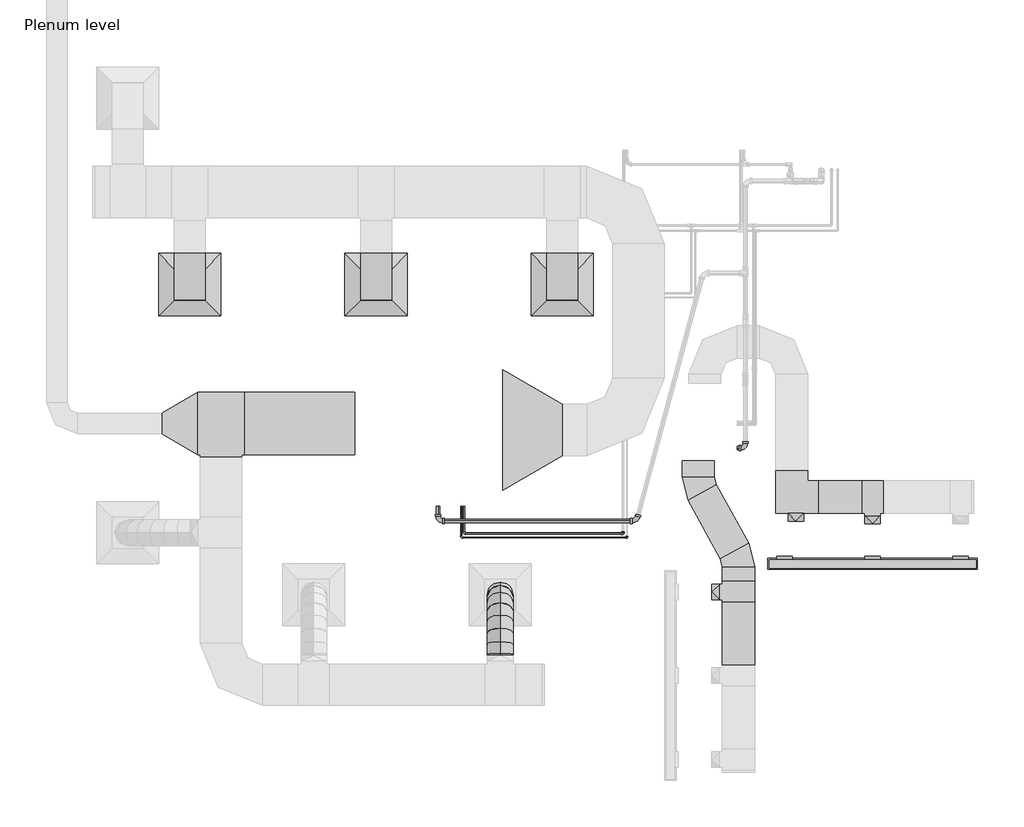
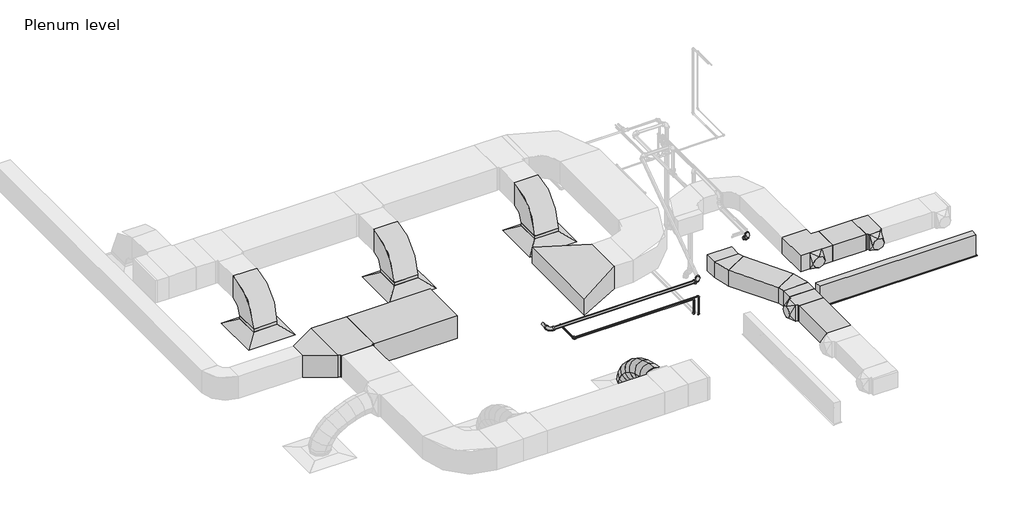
# One storey, part 2 of 5: 16 duct fittings, 10 duct segments, 9 pipe fittings, 9 pipe segments, 4 air terminals.
"""IFC4 building model written with IfcOpenShell, lengths in millimetres."""

from ifc_helpers import new_model, si_unit, point, frame, frame_2d, origin, place, context, project, spatial, polyline, circle_curve, ellipse_curve, trimmed, segment, composite_curve, outline, extrude, transform, mapped, element, save
from ifc_brep_helpers import plane_surface, cylinder_surface, advanced_brep
from components import m_return_diffuser_600_x_600_face_300_x_300_connection_ff221211, standard_549b6772, m_rectangular_elbow_mitered_transition_standard_b998f363, m_rectangular_elbow_radius_1_w_2ae07335, m_rectangular_elbow_radius_1_w_618da153, m_rectangular_tee_standard_5b520c83, m_rectangular_tee_standard_e86e679a, m_rectangular_tee_standard_1939839d, m_rectangular_transition_angle_45_degree_5204351f, m_rectangular_transition_angle_45_degree_ee93f137, m_rectangular_transition_angle_60_degree_07892ac1, m_rectangular_transition_angle_60_degree_b321ac3b, m_rectangular_to_round_transition_angle_45_degree_c764813a, m_rectangular_to_round_transition_angle_45_degree_d6eaa12c, m_bend_pvc_sch_40_dwv_standard_04e582cf, m_bend_pvc_sch_40_dwv_standard_2cf6a8d3, m_elbow_welded_generic_standard_3d1f096c, m_elbow_welded_generic_standard_8e0ccdf9

model = new_model("IFC4")

# Units and contexts
model_context = context("Model", 3, world=origin())
ifc_project = project(units=[si_unit("LENGTHUNIT", "METRE", prefix="MILLI")], contexts=[model_context])

# Site, building, storey
site = spatial("IfcSite", under=ifc_project)
building = spatial("IfcBuilding", under=site)
storey = spatial("IfcBuildingStorey", under=building, Name="Plenum level", Elevation=2500.0)

# Air terminals
placement = place(None, origin())
m_return_diffuser_600_x_600_face_300_x_300_connection_shape = m_return_diffuser_600_x_600_face_300_x_300_connection_ff221211(model_context)
element("IfcAirTerminal", 1, ObjectType="M_Return Diffuser : 600 x 600 Face 300 x 300 Connection", at=placement, inside=storey, context=model_context, shape_type="MappedRepresentation", body=[
    mapped(m_return_diffuser_600_x_600_face_300_x_300_connection_shape, transform((-15662.9123896, -455.4324328, 2500.0), x_axis=(1.0, 0.0, 0.0), y_axis=(0.0, 1.0, 0.0), z_axis=(0.0, 0.0, 1.0))),
])
element("IfcAirTerminal", 2, ObjectType="M_Return Diffuser : 600 x 600 Face 300 x 300 Connection", at=placement, inside=storey, context=model_context, shape_type="MappedRepresentation", body=[
    mapped(m_return_diffuser_600_x_600_face_300_x_300_connection_shape, transform((-13862.9123896, -455.4324328, 2500.0), x_axis=(1.0, 0.0, 0.0), y_axis=(0.0, 1.0, 0.0), z_axis=(0.0, 0.0, 1.0))),
])
element("IfcAirTerminal", 3, ObjectType="M_Return Diffuser : 600 x 600 Face 300 x 300 Connection", at=placement, inside=storey, context=model_context, shape_type="MappedRepresentation", body=[
    mapped(m_return_diffuser_600_x_600_face_300_x_300_connection_shape, transform((-12062.9123896, -455.4324328, 2500.0), x_axis=(1.0, 0.0, 0.0), y_axis=(0.0, 1.0, 0.0), z_axis=(0.0, 0.0, 1.0))),
])
standard_shape = standard_549b6772(model_context)
element("IfcAirTerminal", 4, ObjectType="M_Return Diffuser with Plenum - Linear Slot - Hosted MODIFIED : Standard", at=placement, inside=storey, context=model_context, shape_type="MappedRepresentation", body=[
    mapped(standard_shape, transform((-9062.9123896, -3155.4324328, 2500.0), x_axis=(1.0, 0.0, 0.0), y_axis=(0.0, -1.0, 0.0), z_axis=(0.0, 0.0, -1.0))),
])

# Duct fittings
m_rectangular_elbow_mitered_transition_standard_shape = m_rectangular_elbow_mitered_transition_standard_b998f363(model_context)
element("IfcDuctFitting", 5, ObjectType="M_Rectangular Elbow - Mitered - Transition : Standard", at=placement, inside=storey, context=model_context, shape_type="MappedRepresentation", body=[
    mapped(m_rectangular_elbow_mitered_transition_standard_shape, transform((-9845.2201033, -2510.0324328, 2741.2027987), x_axis=(0.0, -1.0, 0.0), y_axis=(1.0, 0.0, 0.0), z_axis=(0.0, 0.0, 1.0))),
])
m_rectangular_elbow_radius_1_w_shape = m_rectangular_elbow_radius_1_w_2ae07335(model_context)
element("IfcDuctFitting", 6, ObjectType="M_Rectangular Elbow - Radius : 1 W", at=placement, inside=storey, context=model_context, shape_type="MappedRepresentation", body=[
    mapped(m_rectangular_elbow_radius_1_w_shape, transform((-10748.7201033, -2393.8281641, 2765.9110161), x_axis=(0.0, -0.9999999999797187, -6.368885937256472e-06), y_axis=(0.9999999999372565, -7.134490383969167e-11, 1.1202101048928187e-05), z_axis=(-1.120210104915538e-05, -6.368885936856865e-06, 0.9999999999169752))),
])
element("IfcDuctFitting", 7, ObjectType="M_Rectangular Elbow - Radius : 1 W", at=placement, inside=storey, context=model_context, shape_type="MappedRepresentation", body=[
    mapped(m_rectangular_elbow_radius_1_w_shape, transform((-10360.4971529, -3102.6120259, 2765.9121648), x_axis=(0.0, 0.9999999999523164, 9.765625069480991e-06), y_axis=(-0.9999999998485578, 1.699567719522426e-10, -1.74035733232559e-05), z_axis=(-1.7403573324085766e-05, -9.765625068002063e-06, 0.9999999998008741))),
])
m_rectangular_elbow_radius_1_w_2_shape = m_rectangular_elbow_radius_1_w_618da153(model_context)
element("IfcDuctFitting", 8, ObjectType="M_Rectangular Elbow - Radius : 1 W", at=placement, inside=storey, context=model_context, shape_type="MappedRepresentation", body=[
    mapped(m_rectangular_elbow_radius_1_w_2_shape, transform((-12062.9123896, -455.4324328, 2941.2), x_axis=(0.0, -1.0, 0.0), y_axis=(0.0, 0.0, -1.0), z_axis=(1.0, 0.0, 0.0))),
])
element("IfcDuctFitting", 9, ObjectType="M_Rectangular Elbow - Radius : 1 W", at=placement, inside=storey, context=model_context, shape_type="MappedRepresentation", body=[
    mapped(m_rectangular_elbow_radius_1_w_2_shape, transform((-13862.9123896, -455.4324328, 2941.2), x_axis=(0.0, -1.0, 0.0), y_axis=(0.0, 0.0, -1.0), z_axis=(1.0, 0.0, 0.0))),
])
element("IfcDuctFitting", 10, ObjectType="M_Rectangular Elbow - Radius : 1 W", at=placement, inside=storey, context=model_context, shape_type="MappedRepresentation", body=[
    mapped(m_rectangular_elbow_radius_1_w_2_shape, transform((-15662.9123896, -455.4324328, 2941.2), x_axis=(0.0, -1.0, 0.0), y_axis=(0.0, 0.0, -1.0), z_axis=(1.0, 0.0, 0.0))),
])
m_rectangular_tee_standard_shape = m_rectangular_tee_standard_5b520c83(model_context)
element("IfcDuctFitting", 11, ObjectType="M_Rectangular Tee : Standard", at=placement, inside=storey, context=model_context, shape_type="MappedRepresentation", body=[
    mapped(m_rectangular_tee_standard_shape, transform((-10360.4971529, -3424.9332981, 2765.909287), x_axis=(0.0, -0.9999999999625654, -8.652706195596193e-06), y_axis=(1.0, 0.0, 0.0), z_axis=(0.0, -8.652706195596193e-06, 0.9999999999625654))),
])
m_rectangular_tee_standard_2_shape = m_rectangular_tee_standard_e86e679a(model_context)
element("IfcDuctFitting", 12, ObjectType="M_Rectangular Tee : Standard", at=placement, inside=storey, context=model_context, shape_type="MappedRepresentation", body=[
    mapped(m_rectangular_tee_standard_2_shape, transform((-9062.9123896, -2510.0324328, 2741.2027987), x_axis=(1.0, 0.0, 0.0), y_axis=(0.0, 1.0, 0.0), z_axis=(0.0, 0.0, 1.0))),
])
m_rectangular_tee_standard_3_shape = m_rectangular_tee_standard_1939839d(model_context)
element("IfcDuctFitting", 13, ObjectType="M_Rectangular Tee : Standard", at=placement, inside=storey, context=model_context, shape_type="MappedRepresentation", body=[
    mapped(m_rectangular_tee_standard_3_shape, transform((-15362.9185439, -1798.4074328, 2965.8859194), x_axis=(0.9999999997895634, 0.0, 2.051519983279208e-05), y_axis=(3.1979984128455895e-11, 0.9999999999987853, -1.558843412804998e-06), z_axis=(-2.051519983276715e-05, 1.5588434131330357e-06, 0.9999999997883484))),
])
m_rectangular_transition_angle_45_degree_shape = m_rectangular_transition_angle_45_degree_5204351f(model_context)
element("IfcDuctFitting", 14, ObjectType="M_Rectangular Transition - Angle : 45 Degree", at=placement, inside=storey, context=model_context, shape_type="MappedRepresentation", body=[
    mapped(m_rectangular_transition_angle_45_degree_shape, transform((-10710.3765908, -2463.8324305, 2765.9109998), x_axis=(0.48039021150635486, -0.8770548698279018, -2.044827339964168e-07), y_axis=(0.8770548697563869, 0.48039021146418, 1.2884407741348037e-05), z_axis=(-1.1202101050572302e-05, -6.368885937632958e-06, 0.9999999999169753))),
])
m_rectangular_transition_angle_45_degree_2_shape = m_rectangular_transition_angle_45_degree_ee93f137(model_context)
element("IfcDuctFitting", 15, ObjectType="M_Rectangular Transition - Angle : 45 Degree", at=placement, inside=storey, context=model_context, shape_type="MappedRepresentation", body=[
    mapped(m_rectangular_transition_angle_45_degree_2_shape, transform((-10398.8406654, -3032.6077595, 2765.9121811), x_axis=(-0.4803902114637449, 0.8770548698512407, 2.0448275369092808e-07), y_axis=(-0.8770548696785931, -0.48039021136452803, -1.9955199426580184e-05), z_axis=(-1.740357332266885e-05, -9.76562506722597e-06, 0.9999999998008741))),
])
m_rectangular_transition_angle_60_degree_shape = m_rectangular_transition_angle_60_degree_07892ac1(model_context)
element("IfcDuctFitting", 16, ObjectType="M_Rectangular Transition - Angle : 60 Degree", at=placement, inside=storey, context=model_context, shape_type="MappedRepresentation", body=[
    mapped(m_rectangular_transition_angle_60_degree_shape, transform((-15587.9185439, -1798.4074328, 2965.8813035), x_axis=(-0.9999999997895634, 0.0, -2.051519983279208e-05), y_axis=(-3.197998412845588e-11, -0.9999999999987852, 1.5588434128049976e-06), z_axis=(-2.0515199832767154e-05, 1.5588434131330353e-06, 0.9999999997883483))),
])
m_rectangular_transition_angle_60_degree_2_shape = m_rectangular_transition_angle_60_degree_b321ac3b(model_context)
element("IfcDuctFitting", 17, ObjectType="M_Rectangular Transition - Angle : 60 Degree", at=placement, inside=storey, context=model_context, shape_type="MappedRepresentation", body=[
    mapped(m_rectangular_transition_angle_60_degree_2_shape, transform((-12638.2230677, -1861.9074328, 2941.2), x_axis=(1.0, 0.0, 0.0), y_axis=(0.0, 1.0, 0.0), z_axis=(0.0, 0.0, 1.0))),
])
m_rectangular_to_round_transition_angle_45_degree_shape = m_rectangular_to_round_transition_angle_45_degree_c764813a(model_context)
element("IfcDuctFitting", 18, ObjectType="M_Rectangular to Round Transition - Angle : 45 Degree", at=placement, inside=storey, context=model_context, shape_type="MappedRepresentation", body=[
    mapped(m_rectangular_to_round_transition_angle_45_degree_shape, transform((-10541.4346529, -3424.9332981, 2765.909287), x_axis=(-1.0, 0.0, 0.0), y_axis=(0.0, -0.9999999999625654, -8.6527061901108e-06), z_axis=(0.0, -8.6527061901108e-06, 0.9999999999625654))),
])
m_rectangular_to_round_transition_angle_45_degree_2_shape = m_rectangular_to_round_transition_angle_45_degree_d6eaa12c(model_context)
element("IfcDuctFitting", 19, ObjectType="M_Rectangular to Round Transition - Angle : 45 Degree", at=placement, inside=storey, context=model_context, shape_type="MappedRepresentation", body=[
    mapped(m_rectangular_to_round_transition_angle_45_degree_2_shape, transform((-9062.9123896, -2690.9699328, 2741.2027987), x_axis=(0.0, -1.0, 0.0), y_axis=(1.0, 0.0, 0.0), z_axis=(0.0, 0.0, 1.0))),
])
element("IfcDuctFitting", 20, ObjectType="M_Rectangular to Round Transition - Angle : 45 Degree", at=placement, inside=storey, context=model_context, shape_type="MappedRepresentation", body=[
    mapped(m_rectangular_to_round_transition_angle_45_degree_2_shape, transform((-9805.1063823, -2665.9699328, 2742.0), x_axis=(0.0, -1.0, 0.0), y_axis=(1.0, 0.0, 0.0), z_axis=(0.0, 0.0, 1.0))),
])

# Duct segments
element("IfcDuctSegment", 21, ObjectType="Default", at=placement, inside=storey, context=model_context, shape_type="SweptSolid", body=[
    extrude(outline(polyline([(-10904.6576033, -2160.8324328), (-10592.7826033, -2160.8324328), (-10592.7826033, -2314.0107333), (-10904.6576033, -2314.0107333), (-10904.6576033, -2160.8324328)])), frame((0.0, 0.0, 2658.775), z_axis=(0.0, 0.0, 1.0), x_axis=(1.0, 0.0, 0.0)), (0.0, 0.0, 1.0), 214.275),
])
element("IfcDuctSegment", 22, ObjectType="Default", at=placement, inside=storey, context=model_context, shape_type="SweptSolid", body=[
    extrude(outline(polyline([(-10847.0376829, -2539.0644457), (-10573.3965635, -2389.1826997), (-10262.1795712, -2957.3757482), (-10535.8206906, -3107.2574941), (-10847.0376829, -2539.0644457)])), frame((0.0, 0.0, 2658.9109997), z_axis=(0.0, 0.0, 1.0), x_axis=(1.0, 0.0, 0.0)), (0.0, 0.0, 1.0), 214.0),
])
element("IfcDuctSegment", 23, ObjectType="Default", at=placement, inside=storey, context=model_context, shape_type="SweptSolid", body=[
    extrude(outline(polyline([(0.0, -311.875), (0.0, 0.0), (610.5000001, 0.0), (610.5000001, -311.875), (0.0, -311.875)])), frame((-10204.5596529, -3524.932371, 2658.7709218), z_axis=(0.0, -8.652706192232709e-06, 0.9999999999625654), x_axis=(0.0, -0.9999999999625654, -8.652706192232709e-06)), (0.0, 0.0, 1.0), 214.275),
])
element("IfcDuctSegment", 24, ObjectType="Default", at=placement, inside=storey, context=model_context, shape_type="SweptSolid", body=[
    extrude(outline(polyline([(-10516.4346529, -3182.4294567), (-10204.5596529, -3182.4294567), (-10204.5596529, -3324.9332981), (-10516.4346529, -3324.9332981), (-10516.4346529, -3182.4294567)])), frame((0.0, 0.0, 2658.7738853), z_axis=(0.0, 0.0, 1.0), x_axis=(1.0, 0.0, 0.0)), (0.0, 0.0, 1.0), 214.275),
])
element("IfcDuctSegment", 25, ObjectType="Default", at=placement, inside=storey, context=model_context, shape_type="SweptSolid", body=[
    extrude(outline(polyline([(-9589.2826033, -2665.9699328), (-9589.2826033, -2354.0949328), (-9162.9123896, -2354.0949328), (-9162.9123896, -2665.9699328), (-9589.2826033, -2665.9699328)])), frame((0.0, 0.0, 2634.0527987), z_axis=(0.0, 0.0, 1.0), x_axis=(1.0, 0.0, 0.0)), (0.0, 0.0, 1.0), 214.3),
])
element("IfcDuctSegment", 26, ObjectType="Default", at=placement, inside=storey, context=model_context, shape_type="SweptSolid", body=[
    extrude(outline(polyline([(0.0, -600.0), (0.0, 0.0), (1070.6523538, 0.0), (1070.6523538, -600.0), (0.0, -600.0)])), frame((-14067.2631131, -2098.4074328, 2815.9125), z_axis=(-2.051519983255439e-05, 0.0, 0.9999999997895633), x_axis=(-0.9999999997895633, 0.0, -2.051519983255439e-05)), (0.0, 0.0, 1.0), 300.0),
])
element("IfcDuctSegment", 27, ObjectType="Default", at=placement, inside=storey, context=model_context, shape_type="SweptSolid", body=[
    extrude(outline(polyline([(-11912.9123896, -605.4324328), (-12212.9123896, -605.4324328), (-12212.9123896, -305.4324328), (-11912.9123896, -305.4324328), (-11912.9123896, -605.4324328)])), frame((0.0, 0.0, 2601.6), z_axis=(0.0, 0.0, 1.0), x_axis=(1.0, 0.0, 0.0)), (0.0, 0.0, 1.0), 39.6),
])
element("IfcDuctSegment", 28, ObjectType="Default", at=placement, inside=storey, context=model_context, shape_type="SweptSolid", body=[
    extrude(outline(polyline([(-13712.9123896, -605.4324328), (-14012.9123896, -605.4324328), (-14012.9123896, -305.4324328), (-13712.9123896, -305.4324328), (-13712.9123896, -605.4324328)])), frame((0.0, 0.0, 2601.6), z_axis=(0.0, 0.0, 1.0), x_axis=(1.0, 0.0, 0.0)), (0.0, 0.0, 1.0), 39.6),
])
element("IfcDuctSegment", 29, ObjectType="Default", at=placement, inside=storey, context=model_context, shape_type="SweptSolid", body=[
    extrude(outline(polyline([(-15512.9123896, -605.4324328), (-15812.9123896, -605.4324328), (-15812.9123896, -305.4324328), (-15512.9123896, -305.4324328), (-15512.9123896, -605.4324328)])), frame((0.0, 0.0, 2601.6), z_axis=(0.0, 0.0, 1.0), x_axis=(1.0, 0.0, 0.0)), (0.0, 0.0, 1.0), 39.6),
])
element("IfcDuctSegment", 30, ObjectType="Flex - Round", at=placement, inside=storey, context=model_context, shape_type="AdvancedBrep", body=[
    advanced_brep(
    [(-12537.9123896, -3455.4324328, 2553.975), (-12662.9123896, -3580.4324328, 2553.975), (-12787.9123896, -3455.4324328, 2553.975), (-12662.9123896, -3330.4324328, 2553.975), (-12537.9123896, -3455.4324328, 2578.7915529), (-12662.9123896, -3580.4324328, 2562.1226451), (-12787.9123896, -3455.4324328, 2578.7915529), (-12662.9123896, -3330.4324328, 2595.4604606), (-12537.9123896, -3475.2242995, 2651.6814393), (-12662.9123896, -3591.1351624, 2601.5388739), (-12787.9123896, -3475.2242995, 2651.6814393), (-12662.9123896, -3359.3134366, 2701.8240046), (-12537.9123896, -3529.3321135, 2739.649918), (-12662.9123896, -3627.2129002, 2660.1940566), (-12787.9123896, -3529.3321135, 2739.649918), (-12662.9123896, -3431.4513267, 2819.1057794), (-12537.9123896, -3609.8541957, 2815.9509204), (-12662.9123896, -3687.001148, 2716.848121), (-12787.9123896, -3609.8541957, 2815.9509204), (-12662.9123896, -3532.7072434, 2915.0537198), (-12537.9123896, -3708.8888672, 2878.6549311), (-12662.9123896, -3767.3901018, 2767.7465563), (-12787.9123896, -3708.8888672, 2878.6549311), (-12662.9123896, -3650.3876325, 2989.5633058), (-12537.9123896, -3818.5344488, 2925.8324342), (-12662.9123896, -3859.4431438, 2807.3544695), (-12787.9123896, -3818.5344488, 2925.8324342), (-12662.9123896, -3777.6257537, 3044.3103989), (-12537.9123896, -3930.8892614, 2955.5539143), (-12662.9123896, -3953.7505347, 2832.3018231), (-12787.9123896, -3930.8892614, 2955.5539143), (-12662.9123896, -3908.0279882, 3078.8060054), (-12537.9123896, -4026.0509142, 2965.8898555), (-12662.9123896, -4032.8194206, 2840.8898555), (-12787.9123896, -4026.0509142, 2965.8898555), (-12662.9123896, -4019.2824077, 3090.8898555), (-12537.9123896, -4038.0516261, 2965.8898555), (-12662.9123896, -4038.0516261, 2840.8898555), (-12787.9123896, -4038.0516261, 2965.8898555), (-12662.9123896, -4038.0516261, 3090.8898555)],
    [
        (0, 1, circle_curve(frame((-12662.9123896, -3455.4324328, 2553.975), z_axis=(0.0, 0.0, -1.0), x_axis=(1.0, 0.0, 0.0)), 125.0)),
        (1, 2, circle_curve(frame((-12662.9123896, -3455.4324328, 2553.975), z_axis=(0.0, 0.0, -1.0), x_axis=(1.0, 0.0, 0.0)), 125.0)),
        (2, 3, circle_curve(frame((-12662.9123896, -3455.4324328, 2553.975), z_axis=(0.0, 0.0, -1.0), x_axis=(1.0, 0.0, 0.0)), 125.0)),
        (3, 0, circle_curve(frame((-12662.9123896, -3455.4324328, 2553.975), z_axis=(0.0, 0.0, -1.0), x_axis=(1.0, 0.0, 0.0)), 125.0)),
        (0, 4),
        (4, 5, ellipse_curve(frame((-12662.9123896, -3455.4324328, 2578.7915529), z_axis=(0.0, 0.1321811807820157, -0.9912255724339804), x_axis=(0.0, -0.9912255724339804, -0.13218118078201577)), 126.1065125, 125.0)),
        (5, 1),
        (5, 6, ellipse_curve(frame((-12662.9123896, -3455.4324328, 2578.7915529), z_axis=(0.0, 0.1321811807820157, -0.9912255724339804), x_axis=(0.0, -0.9912255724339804, -0.13218118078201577)), 126.1065125, 125.0)),
        (6, 2),
        (6, 7, ellipse_curve(frame((-12662.9123896, -3455.4324328, 2578.7915529), z_axis=(0.0, 0.1321811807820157, -0.9912255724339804), x_axis=(0.0, -0.9912255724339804, -0.13218118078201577)), 126.1065125, 125.0)),
        (7, 3),
        (7, 4, ellipse_curve(frame((-12662.9123896, -3455.4324328, 2578.7915529), z_axis=(0.0, 0.1321811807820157, -0.9912255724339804), x_axis=(0.0, -0.9912255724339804, -0.13218118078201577)), 126.1065125, 125.0)),
        (4, 8),
        (8, 9, ellipse_curve(frame((-12662.9123896, -3475.2242995, 2651.6814393), z_axis=(0.0, 0.39703755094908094, -0.9178023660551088), x_axis=(0.0, -0.9178023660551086, -0.39703755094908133)), 126.2917456, 125.0)),
        (9, 5),
        (9, 10, ellipse_curve(frame((-12662.9123896, -3475.2242995, 2651.6814393), z_axis=(0.0, 0.39703755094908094, -0.9178023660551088), x_axis=(0.0, -0.9178023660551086, -0.39703755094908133)), 126.2917456, 125.0)),
        (10, 6),
        (10, 11, ellipse_curve(frame((-12662.9123896, -3475.2242995, 2651.6814393), z_axis=(0.0, 0.39703755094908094, -0.9178023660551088), x_axis=(0.0, -0.9178023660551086, -0.39703755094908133)), 126.2917456, 125.0)),
        (11, 7),
        (11, 8, ellipse_curve(frame((-12662.9123896, -3475.2242995, 2651.6814393), z_axis=(0.0, 0.39703755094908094, -0.9178023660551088), x_axis=(0.0, -0.9178023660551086, -0.39703755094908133)), 126.2917456, 125.0)),
        (8, 12),
        (12, 13, ellipse_curve(frame((-12662.9123896, -3529.3321135, 2739.649918), z_axis=(0.0, 0.6302472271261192, -0.7763945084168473), x_axis=(0.0, -0.7763945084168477, -0.6302472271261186)), 126.0709417, 125.0)),
        (13, 9),
        (13, 14, ellipse_curve(frame((-12662.9123896, -3529.3321135, 2739.649918), z_axis=(0.0, 0.6302472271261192, -0.7763945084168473), x_axis=(0.0, -0.7763945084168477, -0.6302472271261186)), 126.0709417, 125.0)),
        (14, 10),
        (14, 15, ellipse_curve(frame((-12662.9123896, -3529.3321135, 2739.649918), z_axis=(0.0, 0.6302472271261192, -0.7763945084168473), x_axis=(0.0, -0.7763945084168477, -0.6302472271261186)), 126.0709417, 125.0)),
        (15, 11),
        (15, 12, ellipse_curve(frame((-12662.9123896, -3529.3321135, 2739.649918), z_axis=(0.0, 0.6302472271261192, -0.7763945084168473), x_axis=(0.0, -0.7763945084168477, -0.6302472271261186)), 126.0709417, 125.0)),
        (12, 16),
        (16, 17, ellipse_curve(frame((-12662.9123896, -3609.8541957, 2815.9509204), z_axis=(0.0, 0.7890936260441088, -0.6142729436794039), x_axis=(0.0, -0.6142729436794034, -0.7890936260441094)), 125.5906728, 125.0)),
        (17, 13),
        (17, 18, ellipse_curve(frame((-12662.9123896, -3609.8541957, 2815.9509204), z_axis=(0.0, 0.7890936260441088, -0.6142729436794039), x_axis=(0.0, -0.6142729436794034, -0.7890936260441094)), 125.5906728, 125.0)),
        (18, 14),
        (18, 19, ellipse_curve(frame((-12662.9123896, -3609.8541957, 2815.9509204), z_axis=(0.0, 0.7890936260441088, -0.6142729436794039), x_axis=(0.0, -0.6142729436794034, -0.7890936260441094)), 125.5906728, 125.0)),
        (19, 15),
        (19, 16, ellipse_curve(frame((-12662.9123896, -3609.8541957, 2815.9509204), z_axis=(0.0, 0.7890936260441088, -0.6142729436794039), x_axis=(0.0, -0.6142729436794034, -0.7890936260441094)), 125.5906728, 125.0)),
        (16, 20),
        (20, 21, ellipse_curve(frame((-12662.9123896, -3708.8888672, 2878.6549311), z_axis=(0.0, 0.8844958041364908, -0.4665481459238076), x_axis=(0.0, -0.4665481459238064, -0.8844958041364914)), 125.3916347, 125.0)),
        (21, 17),
        (21, 22, ellipse_curve(frame((-12662.9123896, -3708.8888672, 2878.6549311), z_axis=(0.0, 0.8844958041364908, -0.4665481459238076), x_axis=(0.0, -0.4665481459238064, -0.8844958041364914)), 125.3916347, 125.0)),
        (22, 18),
        (22, 23, ellipse_curve(frame((-12662.9123896, -3708.8888672, 2878.6549311), z_axis=(0.0, 0.8844958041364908, -0.4665481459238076), x_axis=(0.0, -0.4665481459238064, -0.8844958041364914)), 125.3916347, 125.0)),
        (23, 19),
        (23, 20, ellipse_curve(frame((-12662.9123896, -3708.8888672, 2878.6549311), z_axis=(0.0, 0.8844958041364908, -0.4665481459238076), x_axis=(0.0, -0.4665481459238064, -0.8844958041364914)), 125.3916347, 125.0)),
        (20, 24),
        (24, 25, ellipse_curve(frame((-12662.9123896, -3818.5344488, 2925.8324342), z_axis=(0.0, 0.9452395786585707, -0.3263772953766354), x_axis=(0.0, -0.32637729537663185, -0.9452395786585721)), 125.3417307, 125.0)),
        (25, 21),
        (25, 26, ellipse_curve(frame((-12662.9123896, -3818.5344488, 2925.8324342), z_axis=(0.0, 0.9452395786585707, -0.3263772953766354), x_axis=(0.0, -0.32637729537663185, -0.9452395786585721)), 125.3417307, 125.0)),
        (26, 22),
        (26, 27, ellipse_curve(frame((-12662.9123896, -3818.5344488, 2925.8324342), z_axis=(0.0, 0.9452395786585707, -0.3263772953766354), x_axis=(0.0, -0.32637729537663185, -0.9452395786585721)), 125.3417307, 125.0)),
        (27, 23),
        (27, 24, ellipse_curve(frame((-12662.9123896, -3818.5344488, 2925.8324342), z_axis=(0.0, 0.9452395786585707, -0.3263772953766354), x_axis=(0.0, -0.32637729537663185, -0.9452395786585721)), 125.3417307, 125.0)),
        (24, 28),
        (28, 29, ellipse_curve(frame((-12662.9123896, -3930.8892614, 2955.5539143), z_axis=(0.0, 0.983229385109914, -0.18237317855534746), x_axis=(0.0, -0.18237317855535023, -0.9832293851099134)), 125.3543609, 125.0)),
        (29, 25),
        (29, 30, ellipse_curve(frame((-12662.9123896, -3930.8892614, 2955.5539143), z_axis=(0.0, 0.983229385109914, -0.18237317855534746), x_axis=(0.0, -0.18237317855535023, -0.9832293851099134)), 125.3543609, 125.0)),
        (30, 26),
        (30, 31, ellipse_curve(frame((-12662.9123896, -3930.8892614, 2955.5539143), z_axis=(0.0, 0.983229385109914, -0.18237317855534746), x_axis=(0.0, -0.18237317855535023, -0.9832293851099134)), 125.3543609, 125.0)),
        (31, 27),
        (31, 28, ellipse_curve(frame((-12662.9123896, -3930.8892614, 2955.5539143), z_axis=(0.0, 0.983229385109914, -0.18237317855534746), x_axis=(0.0, -0.18237317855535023, -0.9832293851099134)), 125.3543609, 125.0)),
        (28, 32),
        (32, 33, ellipse_curve(frame((-12662.9123896, -4026.0509142, 2965.8898555), z_axis=(0.0, 0.9985372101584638, -0.0540688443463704), x_axis=(0.0, -0.05406884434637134, -0.9985372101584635)), 125.1831166, 125.0)),
        (33, 29),
        (33, 34, ellipse_curve(frame((-12662.9123896, -4026.0509142, 2965.8898555), z_axis=(0.0, 0.9985372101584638, -0.0540688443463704), x_axis=(0.0, -0.05406884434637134, -0.9985372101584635)), 125.1831166, 125.0)),
        (34, 30),
        (34, 35, ellipse_curve(frame((-12662.9123896, -4026.0509142, 2965.8898555), z_axis=(0.0, 0.9985372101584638, -0.0540688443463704), x_axis=(0.0, -0.05406884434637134, -0.9985372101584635)), 125.1831166, 125.0)),
        (35, 31),
        (35, 32, ellipse_curve(frame((-12662.9123896, -4026.0509142, 2965.8898555), z_axis=(0.0, 0.9985372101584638, -0.0540688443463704), x_axis=(0.0, -0.05406884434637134, -0.9985372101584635)), 125.1831166, 125.0)),
        (32, 36),
        (36, 37, circle_curve(frame((-12662.9123896, -4038.0516261, 2965.8898555), z_axis=(0.0, 1.0, 0.0), x_axis=(1.0, 0.0, 0.0)), 125.0)),
        (37, 33),
        (37, 38, circle_curve(frame((-12662.9123896, -4038.0516261, 2965.8898555), z_axis=(0.0, 1.0, 0.0), x_axis=(1.0, 0.0, 0.0)), 125.0)),
        (38, 34),
        (38, 39, circle_curve(frame((-12662.9123896, -4038.0516261, 2965.8898555), z_axis=(0.0, 1.0, 0.0), x_axis=(1.0, 0.0, 0.0)), 125.0)),
        (39, 35),
        (39, 36, circle_curve(frame((-12662.9123896, -4038.0516261, 2965.8898555), z_axis=(0.0, 1.0, 0.0), x_axis=(1.0, 0.0, 0.0)), 125.0)),
    ],
    [
        plane_surface(frame((-12662.9123896, -3580.4324328, 2553.975), z_axis=(0.0, 0.0, -1.0), x_axis=(1.0, 0.0, 0.0))),
        cylinder_surface(frame((-12662.9123896, -3455.4324328, 2553.975), z_axis=(0.0, 0.0, -1.0), x_axis=(1.0, 0.0, 0.0)), 125.0),
        cylinder_surface(frame((-12662.9123896, -3455.4324328, 2578.7915529), z_axis=(0.0, 0.26204273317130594, -0.9650562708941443), x_axis=(1.0, 0.0, 0.0)), 125.0),
        cylinder_surface(frame((-12662.9123896, -3475.2242995, 2651.6814393), z_axis=(0.0, 0.523910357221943, -0.8517734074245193), x_axis=(1.0, 0.0, 0.0)), 125.0),
        cylinder_surface(frame((-12662.9123896, -3529.3321135, 2739.649918), z_axis=(0.0, 0.7258765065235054, -0.687825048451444), x_axis=(1.0, 0.0, 0.0)), 125.0),
        cylinder_surface(frame((-12662.9123896, -3609.8541957, 2815.9509204), z_axis=(0.0, 0.844888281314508, -0.5349427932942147), x_axis=(1.0, 0.0, 0.0)), 125.0),
        cylinder_surface(frame((-12662.9123896, -3708.8888672, 2878.6549311), z_axis=(0.0, 0.9185782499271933, -0.3952391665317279), x_axis=(1.0, 0.0, 0.0)), 125.0),
        cylinder_surface(frame((-12662.9123896, -3818.5344488, 2925.8324342), z_axis=(0.0, 0.966746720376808, -0.25573575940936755), x_axis=(1.0, 0.0, 0.0)), 125.0),
        cylinder_surface(frame((-12662.9123896, -3930.8892614, 2955.5539143), z_axis=(0.0, 0.994153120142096, -0.10797950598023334), x_axis=(1.0, 0.0, 0.0)), 125.0),
        cylinder_surface(frame((-12662.9123896, -4026.0509142, 2965.8898555), z_axis=(0.0, 1.0, 0.0), x_axis=(1.0, 0.0, 0.0)), 125.0),
        plane_surface(frame((-12787.9123896, -4038.0516261, 2965.8898555), z_axis=(0.0, -1.0, 0.0), x_axis=(0.0, 0.0, -1.0))),
    ],
    [
        (0, [[1, 2, 3, 4]]),
        (1, [[-1, 5, 6, 7]]),
        (1, [[-2, -7, 8, 9]]),
        (1, [[-3, -9, 10, 11]]),
        (1, [[-4, -11, 12, -5]]),
        (2, [[-6, 13, 14, 15]]),
        (2, [[-8, -15, 16, 17]]),
        (2, [[-10, -17, 18, 19]]),
        (2, [[-12, -19, 20, -13]]),
        (3, [[-14, 21, 22, 23]]),
        (3, [[-16, -23, 24, 25]]),
        (3, [[-18, -25, 26, 27]]),
        (3, [[-20, -27, 28, -21]]),
        (4, [[-22, 29, 30, 31]]),
        (4, [[-24, -31, 32, 33]]),
        (4, [[-26, -33, 34, 35]]),
        (4, [[-28, -35, 36, -29]]),
        (5, [[-30, 37, 38, 39]]),
        (5, [[-32, -39, 40, 41]]),
        (5, [[-34, -41, 42, 43]]),
        (5, [[-36, -43, 44, -37]]),
        (6, [[-38, 45, 46, 47]]),
        (6, [[-40, -47, 48, 49]]),
        (6, [[-42, -49, 50, 51]]),
        (6, [[-44, -51, 52, -45]]),
        (7, [[-46, 53, 54, 55]]),
        (7, [[-48, -55, 56, 57]]),
        (7, [[-50, -57, 58, 59]]),
        (7, [[-52, -59, 60, -53]]),
        (8, [[-54, 61, 62, 63]]),
        (8, [[-56, -63, 64, 65]]),
        (8, [[-58, -65, 66, 67]]),
        (8, [[-60, -67, 68, -61]]),
        (9, [[-62, 69, 70, 71]]),
        (9, [[-64, -71, 72, 73]]),
        (9, [[-66, -73, 74, 75]]),
        (9, [[-68, -75, 76, -69]]),
        (10, [[-76, -74, -72, -70]]),
    ],
),
])

# Pipe fittings
m_bend_pvc_sch_40_dwv_standard_shape = m_bend_pvc_sch_40_dwv_standard_04e582cf(model_context)
element("IfcPipeFitting", 31, ObjectType="M_Bend - PVC - Sch 40 - DWV : Standard", at=placement, inside=storey, context=model_context, shape_type="MappedRepresentation", body=[
    mapped(m_bend_pvc_sch_40_dwv_standard_shape, transform((-10292.1201033, -2035.4324328, 2833.3), x_axis=(1.0, 0.0, 0.0), y_axis=(0.0, 1.0, 0.0), z_axis=(0.0, 0.0, 1.0))),
])
element("IfcPipeFitting", 32, ObjectType="M_Bend - PVC - Sch 40 - DWV : Standard", at=placement, inside=storey, context=model_context, shape_type="MappedRepresentation", body=[
    mapped(m_bend_pvc_sch_40_dwv_standard_shape, transform((-13263.6230677, -2740.0074328, 3033.3), x_axis=(0.0, -1.0, 0.0), y_axis=(1.0, 0.0, 0.0), z_axis=(0.0, 0.0, 1.0))),
])
m_bend_pvc_sch_40_dwv_standard_2_shape = m_bend_pvc_sch_40_dwv_standard_2cf6a8d3(model_context)
element("IfcPipeFitting", 33, ObjectType="M_Bend - PVC - Sch 40 - DWV : Standard", at=placement, inside=storey, context=model_context, shape_type="MappedRepresentation", body=[
    mapped(m_bend_pvc_sch_40_dwv_standard_2_shape, transform((-11343.6230677, -2740.0074328, 3033.3), x_axis=(1.0, 0.0, 0.0), y_axis=(0.0, 1.0, 0.0), z_axis=(0.0, 0.0, 1.0))),
])
m_elbow_welded_generic_standard_shape = m_elbow_welded_generic_standard_3d1f096c(model_context)
element("IfcPipeFitting", 34, ObjectType="M_Elbow - Welded - Generic : Standard", at=placement, inside=storey, context=model_context, shape_type="MappedRepresentation", body=[
    mapped(m_elbow_welded_generic_standard_shape, transform((-13013.6230677, -2860.0074328, 2900.0), x_axis=(0.0, -1.0, 0.0), y_axis=(1.0, 0.0, 0.0), z_axis=(0.0, 0.0, 1.0))),
])
element("IfcPipeFitting", 35, ObjectType="M_Elbow - Welded - Generic : Standard", at=placement, inside=storey, context=model_context, shape_type="MappedRepresentation", body=[
    mapped(m_elbow_welded_generic_standard_shape, transform((-11476.7873896, -2860.0074328, 2900.0), x_axis=(1.0, 0.0, 0.0), y_axis=(0.0, 0.0, -1.0), z_axis=(0.0, 1.0, 0.0))),
])
element("IfcPipeFitting", 36, ObjectType="M_Elbow - Welded - Generic : Standard", at=placement, inside=storey, context=model_context, shape_type="MappedRepresentation", body=[
    mapped(m_elbow_welded_generic_standard_shape, transform((-11476.7873896, -2860.0074328, 2700.0), x_axis=(0.0, 0.0, -1.0), y_axis=(0.0, 1.0, 0.0), z_axis=(1.0, 0.0, 0.0))),
])
m_elbow_welded_generic_standard_2_shape = m_elbow_welded_generic_standard_8e0ccdf9(model_context)
element("IfcPipeFitting", 37, ObjectType="M_Elbow - Welded - Generic : Standard", at=placement, inside=storey, context=model_context, shape_type="MappedRepresentation", body=[
    mapped(m_elbow_welded_generic_standard_2_shape, transform((-13038.6230677, -2900.0074328, 2950.8), x_axis=(0.0, -1.0, 0.0), y_axis=(1.0, 0.0, 0.0), z_axis=(0.0, 0.0, 1.0))),
])
element("IfcPipeFitting", 38, ObjectType="M_Elbow - Welded - Generic : Standard", at=placement, inside=storey, context=model_context, shape_type="MappedRepresentation", body=[
    mapped(m_elbow_welded_generic_standard_2_shape, transform((-11438.6873896, -2900.0074328, 2950.8), x_axis=(1.0, 0.0, 0.0), y_axis=(0.0, 0.0, -1.0), z_axis=(0.0, 1.0, 0.0))),
])
element("IfcPipeFitting", 39, ObjectType="M_Elbow - Welded - Generic : Standard", at=placement, inside=storey, context=model_context, shape_type="MappedRepresentation", body=[
    mapped(m_elbow_welded_generic_standard_2_shape, transform((-11438.6873896, -2900.0074328, 2700.0), x_axis=(0.0, 0.0, -1.0), y_axis=(0.0, 1.0, 0.0), z_axis=(1.0, 0.0, 0.0))),
])

# Pipe segments
element("IfcPipeSegment", 40, ObjectType="COPPER PIPE", at=placement, inside=storey, context=model_context, shape_type="SweptSolid", body=[
    extrude(outline(composite_curve([segment(trimmed(circle_curve(frame_2d((2900.0, -13013.6230677)), 6.5), [point((2900.0, -13020.1230677))], [point((2893.5, -13013.6230677))], False, "CARTESIAN"), True, "CONTINUOUS"), segment(trimmed(circle_curve(frame_2d((2900.0, -13013.6230677)), 6.5), [point((2893.5, -13013.6230677))], [point((2900.0, -13007.1230677))], False, "CARTESIAN"), True, "CONTINUOUS"), segment(trimmed(circle_curve(frame_2d((2900.0, -13013.6230677)), 6.5), [point((2900.0, -13007.1230677))], [point((2906.5, -13013.6230677))], False, "CARTESIAN"), True, "CONTINUOUS"), segment(trimmed(circle_curve(frame_2d((2900.0, -13013.6230677)), 6.5), [point((2906.5, -13013.6230677))], [point((2900.0, -13020.1230677))], False, "CARTESIAN"), True, "CONTINUOUS")], self_intersect=False)), frame((0.0, -2845.2484484, 0.0), z_axis=(0.0, 1.0, 0.0), x_axis=(0.0, 0.0, 1.0)), (0.0, 0.0, 1.0), 245.2410156),
])
element("IfcPipeSegment", 41, ObjectType="COPPER PIPE", at=placement, inside=storey, context=model_context, shape_type="SweptSolid", body=[
    extrude(outline(composite_curve([segment(trimmed(circle_curve(frame_2d((-2860.0074328, 2900.0)), 6.5), [point((-2866.5074328, 2900.0))], [point((-2860.0074328, 2906.5))], False, "CARTESIAN"), True, "CONTINUOUS"), segment(trimmed(circle_curve(frame_2d((-2860.0074328, 2900.0)), 6.5), [point((-2860.0074328, 2906.5))], [point((-2853.5074328, 2900.0))], False, "CARTESIAN"), True, "CONTINUOUS"), segment(trimmed(circle_curve(frame_2d((-2860.0074328, 2900.0)), 6.5), [point((-2853.5074328, 2900.0))], [point((-2860.0074328, 2893.5))], False, "CARTESIAN"), True, "CONTINUOUS"), segment(trimmed(circle_curve(frame_2d((-2860.0074328, 2900.0)), 6.5), [point((-2860.0074328, 2893.5))], [point((-2866.5074328, 2900.0))], False, "CARTESIAN"), True, "CONTINUOUS")], self_intersect=False)), frame((-12998.8640834, 0.0, 0.0), z_axis=(1.0, 0.0, 0.0), x_axis=(0.0, 1.0, 0.0)), (0.0, 0.0, 1.0), 1507.3177094),
])
element("IfcPipeSegment", 42, ObjectType="COPPER PIPE", at=placement, inside=storey, context=model_context, shape_type="SweptSolid", body=[
    extrude(outline(composite_curve([segment(trimmed(circle_curve(frame_2d((2950.8, -13038.6230677)), 3.5), [point((2950.8, -13042.1230677))], [point((2947.3, -13038.6230677))], False, "CARTESIAN"), True, "CONTINUOUS"), segment(trimmed(circle_curve(frame_2d((2950.8, -13038.6230677)), 3.5), [point((2947.3, -13038.6230677))], [point((2950.8, -13035.1230677))], False, "CARTESIAN"), True, "CONTINUOUS"), segment(trimmed(circle_curve(frame_2d((2950.8, -13038.6230677)), 3.5), [point((2950.8, -13035.1230677))], [point((2954.3, -13038.6230677))], False, "CARTESIAN"), True, "CONTINUOUS"), segment(trimmed(circle_curve(frame_2d((2950.8, -13038.6230677)), 3.5), [point((2954.3, -13038.6230677))], [point((2950.8, -13042.1230677))], False, "CARTESIAN"), True, "CONTINUOUS")], self_intersect=False)), frame((0.0, -2888.3984484, 0.0), z_axis=(0.0, 1.0, 0.0), x_axis=(0.0, 0.0, 1.0)), (0.0, 0.0, 1.0), 288.3910156),
])
element("IfcPipeSegment", 43, ObjectType="COPPER PIPE", at=placement, inside=storey, context=model_context, shape_type="SweptSolid", body=[
    extrude(outline(composite_curve([segment(trimmed(circle_curve(frame_2d((-2900.0074328, 2950.8)), 3.5), [point((-2903.5074328, 2950.8))], [point((-2900.0074328, 2954.3))], False, "CARTESIAN"), True, "CONTINUOUS"), segment(trimmed(circle_curve(frame_2d((-2900.0074328, 2950.8)), 3.5), [point((-2900.0074328, 2954.3))], [point((-2896.5074328, 2950.8))], False, "CARTESIAN"), True, "CONTINUOUS"), segment(trimmed(circle_curve(frame_2d((-2900.0074328, 2950.8)), 3.5), [point((-2896.5074328, 2950.8))], [point((-2900.0074328, 2947.3))], False, "CARTESIAN"), True, "CONTINUOUS"), segment(trimmed(circle_curve(frame_2d((-2900.0074328, 2950.8)), 3.5), [point((-2900.0074328, 2947.3))], [point((-2903.5074328, 2950.8))], False, "CARTESIAN"), True, "CONTINUOUS")], self_intersect=False)), frame((-13027.0140834, 0.0, 0.0), z_axis=(1.0, 0.0, 0.0), x_axis=(0.0, 1.0, 0.0)), (0.0, 0.0, 1.0), 1576.7177094),
])
element("IfcPipeSegment", 44, ObjectType="COPPER PIPE", at=placement, inside=storey, context=model_context, shape_type="SweptSolid", body=[
    extrude(outline(composite_curve([segment(trimmed(circle_curve(frame_2d((-11476.7873896, -2860.0074328)), 6.5), [point((-11470.2873896, -2860.0074328))], [point((-11476.7873896, -2866.5074328))], False, "CARTESIAN"), True, "CONTINUOUS"), segment(trimmed(circle_curve(frame_2d((-11476.7873896, -2860.0074328)), 6.5), [point((-11476.7873896, -2866.5074328))], [point((-11483.2873896, -2860.0074328))], False, "CARTESIAN"), True, "CONTINUOUS"), segment(trimmed(circle_curve(frame_2d((-11476.7873896, -2860.0074328)), 6.5), [point((-11483.2873896, -2860.0074328))], [point((-11476.7873896, -2853.5074328))], False, "CARTESIAN"), True, "CONTINUOUS"), segment(trimmed(circle_curve(frame_2d((-11476.7873896, -2860.0074328)), 6.5), [point((-11476.7873896, -2853.5074328))], [point((-11470.2873896, -2860.0074328))], False, "CARTESIAN"), True, "CONTINUOUS")], self_intersect=False)), frame((0.0, 0.0, 2714.7589844), z_axis=(0.0, 0.0, 1.0), x_axis=(1.0, 0.0, 0.0)), (0.0, 0.0, 1.0), 170.4820312),
])
element("IfcPipeSegment", 45, ObjectType="COPPER PIPE", at=placement, inside=storey, context=model_context, shape_type="SweptSolid", body=[
    extrude(outline(composite_curve([segment(trimmed(circle_curve(frame_2d((-11438.6873896, -2900.0074328)), 3.5), [point((-11435.1873896, -2900.0074328))], [point((-11438.6873896, -2903.5074328))], False, "CARTESIAN"), True, "CONTINUOUS"), segment(trimmed(circle_curve(frame_2d((-11438.6873896, -2900.0074328)), 3.5), [point((-11438.6873896, -2903.5074328))], [point((-11442.1873896, -2900.0074328))], False, "CARTESIAN"), True, "CONTINUOUS"), segment(trimmed(circle_curve(frame_2d((-11438.6873896, -2900.0074328)), 3.5), [point((-11442.1873896, -2900.0074328))], [point((-11438.6873896, -2896.5074328))], False, "CARTESIAN"), True, "CONTINUOUS"), segment(trimmed(circle_curve(frame_2d((-11438.6873896, -2900.0074328)), 3.5), [point((-11438.6873896, -2896.5074328))], [point((-11435.1873896, -2900.0074328))], False, "CARTESIAN"), True, "CONTINUOUS")], self_intersect=False)), frame((0.0, 0.0, 2711.6089844), z_axis=(0.0, 0.0, 1.0), x_axis=(1.0, 0.0, 0.0)), (0.0, 0.0, 1.0), 227.5820312),
])
element("IfcPipeSegment", 46, ObjectType="PVC - DWV", at=placement, inside=storey, context=model_context, shape_type="SweptSolid", body=[
    extrude(outline(composite_curve([segment(trimmed(circle_curve(frame_2d((-2035.4324328, 2833.3)), 16.25), [point((-2051.6824328, 2833.3))], [point((-2035.4324328, 2849.55))], False, "CARTESIAN"), True, "CONTINUOUS"), segment(trimmed(circle_curve(frame_2d((-2035.4324328, 2833.3)), 16.25), [point((-2035.4324328, 2849.55))], [point((-2019.1824328, 2833.3))], False, "CARTESIAN"), True, "CONTINUOUS"), segment(trimmed(circle_curve(frame_2d((-2035.4324328, 2833.3)), 16.25), [point((-2019.1824328, 2833.3))], [point((-2035.4324328, 2817.05))], False, "CARTESIAN"), True, "CONTINUOUS"), segment(trimmed(circle_curve(frame_2d((-2035.4324328, 2833.3)), 16.25), [point((-2035.4324328, 2817.05))], [point((-2051.6824328, 2833.3))], False, "CARTESIAN"), True, "CONTINUOUS")], self_intersect=False)), frame((-10372.1201033, 0.0, 0.0), z_axis=(1.0, 0.0, 0.0), x_axis=(0.0, 1.0, 0.0)), (0.0, 0.0, 1.0), 19.4979375),
])
element("IfcPipeSegment", 47, ObjectType="PVC - DWV", at=placement, inside=storey, context=model_context, shape_type="SweptSolid", body=[
    extrude(outline(composite_curve([segment(trimmed(circle_curve(frame_2d((3033.3, -13263.6230677)), 16.25), [point((3033.3, -13279.8730677))], [point((3017.05, -13263.6230677))], False, "CARTESIAN"), True, "CONTINUOUS"), segment(trimmed(circle_curve(frame_2d((3033.3, -13263.6230677)), 16.25), [point((3017.05, -13263.6230677))], [point((3033.3, -13247.3730677))], False, "CARTESIAN"), True, "CONTINUOUS"), segment(trimmed(circle_curve(frame_2d((3033.3, -13263.6230677)), 16.25), [point((3033.3, -13247.3730677))], [point((3049.55, -13263.6230677))], False, "CARTESIAN"), True, "CONTINUOUS"), segment(trimmed(circle_curve(frame_2d((3033.3, -13263.6230677)), 16.25), [point((3049.55, -13263.6230677))], [point((3033.3, -13279.8730677))], False, "CARTESIAN"), True, "CONTINUOUS")], self_intersect=False)), frame((0.0, -2679.5053703, 0.0), z_axis=(0.0, 1.0, 0.0), x_axis=(0.0, 0.0, 1.0)), (0.0, 0.0, 1.0), 79.4979375),
])
element("IfcPipeSegment", 48, ObjectType="PVC - DWV", at=placement, inside=storey, context=model_context, shape_type="SweptSolid", body=[
    extrude(outline(composite_curve([segment(trimmed(circle_curve(frame_2d((-2740.0074328, 3033.3)), 16.25), [point((-2756.2574328, 3033.3))], [point((-2740.0074328, 3049.55))], False, "CARTESIAN"), True, "CONTINUOUS"), segment(trimmed(circle_curve(frame_2d((-2740.0074328, 3033.3)), 16.25), [point((-2740.0074328, 3049.55))], [point((-2723.7574328, 3033.3))], False, "CARTESIAN"), True, "CONTINUOUS"), segment(trimmed(circle_curve(frame_2d((-2740.0074328, 3033.3)), 16.25), [point((-2723.7574328, 3033.3))], [point((-2740.0074328, 3017.05))], False, "CARTESIAN"), True, "CONTINUOUS"), segment(trimmed(circle_curve(frame_2d((-2740.0074328, 3033.3)), 16.25), [point((-2740.0074328, 3017.05))], [point((-2756.2574328, 3033.3))], False, "CARTESIAN"), True, "CONTINUOUS")], self_intersect=False)), frame((-13203.1210052, 0.0, 0.0), z_axis=(1.0, 0.0, 0.0), x_axis=(0.0, 1.0, 0.0)), (0.0, 0.0, 1.0), 1798.995875),
])

save(model, "model.ifc")
